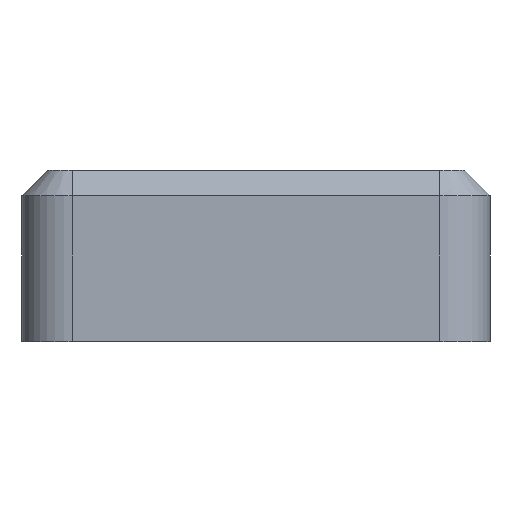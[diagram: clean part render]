
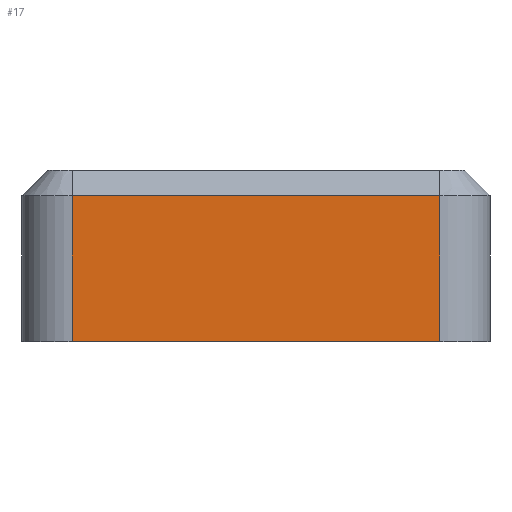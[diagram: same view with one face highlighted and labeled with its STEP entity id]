
A CAD part, front view. The second image highlights one B-rep face of the part: STEP entity #17.
In plain terms, the highlighted planar face has unit normal (0, -1, 0).
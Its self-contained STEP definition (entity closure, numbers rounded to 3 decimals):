
#17 = ADVANCED_FACE('',(#18),#32,.F.);
#18 = FACE_BOUND('',#19,.F.);
#19 = EDGE_LOOP('',(#20,#55,#83,#111));
#20 = ORIENTED_EDGE('',*,*,#21,.T.);
#21 = EDGE_CURVE('',#22,#24,#26,.T.);
#22 = VERTEX_POINT('',#23);
#23 = CARTESIAN_POINT('',(-7.3,-5.2,28.2));
#24 = VERTEX_POINT('',#25);
#25 = CARTESIAN_POINT('',(-7.3,-5.2,34.));
#26 = SURFACE_CURVE('',#27,(#31,#43),.PCURVE_S1.);
#27 = LINE('',#28,#29);
#28 = CARTESIAN_POINT('',(-7.3,-5.2,28.2));
#29 = VECTOR('',#30,1.);
#30 = DIRECTION('',(0.,0.,1.));
#31 = PCURVE('',#32,#37);
#32 = PLANE('',#33);
#33 = AXIS2_PLACEMENT_3D('',#34,#35,#36);
#34 = CARTESIAN_POINT('',(-9.3,-5.2,28.2));
#35 = DIRECTION('',(0.,1.,0.));
#36 = DIRECTION('',(1.,0.,0.));
#37 = DEFINITIONAL_REPRESENTATION('',(#38),#42);
#38 = LINE('',#39,#40);
#39 = CARTESIAN_POINT('',(2.,0.));
#40 = VECTOR('',#41,1.);
#41 = DIRECTION('',(0.,-1.));
#42 = ( GEOMETRIC_REPRESENTATION_CONTEXT(2) 
PARAMETRIC_REPRESENTATION_CONTEXT() REPRESENTATION_CONTEXT('2D SPACE',''
  ) );
#43 = PCURVE('',#44,#49);
#44 = CYLINDRICAL_SURFACE('',#45,2.);
#45 = AXIS2_PLACEMENT_3D('',#46,#47,#48);
#46 = CARTESIAN_POINT('',(-7.3,-3.2,28.2));
#47 = DIRECTION('',(0.,0.,1.));
#48 = DIRECTION('',(0.,-1.,0.));
#49 = DEFINITIONAL_REPRESENTATION('',(#50),#54);
#50 = LINE('',#51,#52);
#51 = CARTESIAN_POINT('',(-0.,0.));
#52 = VECTOR('',#53,1.);
#53 = DIRECTION('',(-0.,1.));
#54 = ( GEOMETRIC_REPRESENTATION_CONTEXT(2) 
PARAMETRIC_REPRESENTATION_CONTEXT() REPRESENTATION_CONTEXT('2D SPACE',''
  ) );
#55 = ORIENTED_EDGE('',*,*,#56,.T.);
#56 = EDGE_CURVE('',#24,#57,#59,.T.);
#57 = VERTEX_POINT('',#58);
#58 = CARTESIAN_POINT('',(7.3,-5.2,34.));
#59 = SURFACE_CURVE('',#60,(#64,#71),.PCURVE_S1.);
#60 = LINE('',#61,#62);
#61 = CARTESIAN_POINT('',(-7.3,-5.2,34.));
#62 = VECTOR('',#63,1.);
#63 = DIRECTION('',(1.,0.,0.));
#64 = PCURVE('',#32,#65);
#65 = DEFINITIONAL_REPRESENTATION('',(#66),#70);
#66 = LINE('',#67,#68);
#67 = CARTESIAN_POINT('',(2.,-5.8));
#68 = VECTOR('',#69,1.);
#69 = DIRECTION('',(1.,0.));
#70 = ( GEOMETRIC_REPRESENTATION_CONTEXT(2) 
PARAMETRIC_REPRESENTATION_CONTEXT() REPRESENTATION_CONTEXT('2D SPACE',''
  ) );
#71 = PCURVE('',#72,#77);
#72 = PLANE('',#73);
#73 = AXIS2_PLACEMENT_3D('',#74,#75,#76);
#74 = CARTESIAN_POINT('',(-7.3,-4.7,34.5));
#75 = DIRECTION('',(0.,0.707,-0.707)
  );
#76 = DIRECTION('',(-1.,0.,0.));
#77 = DEFINITIONAL_REPRESENTATION('',(#78),#82);
#78 = LINE('',#79,#80);
#79 = CARTESIAN_POINT('',(-0.,-0.707));
#80 = VECTOR('',#81,1.);
#81 = DIRECTION('',(-1.,0.));
#82 = ( GEOMETRIC_REPRESENTATION_CONTEXT(2) 
PARAMETRIC_REPRESENTATION_CONTEXT() REPRESENTATION_CONTEXT('2D SPACE',''
  ) );
#83 = ORIENTED_EDGE('',*,*,#84,.F.);
#84 = EDGE_CURVE('',#85,#57,#87,.T.);
#85 = VERTEX_POINT('',#86);
#86 = CARTESIAN_POINT('',(7.3,-5.2,28.2));
#87 = SURFACE_CURVE('',#88,(#92,#99),.PCURVE_S1.);
#88 = LINE('',#89,#90);
#89 = CARTESIAN_POINT('',(7.3,-5.2,28.2));
#90 = VECTOR('',#91,1.);
#91 = DIRECTION('',(0.,0.,1.));
#92 = PCURVE('',#32,#93);
#93 = DEFINITIONAL_REPRESENTATION('',(#94),#98);
#94 = LINE('',#95,#96);
#95 = CARTESIAN_POINT('',(16.6,0.));
#96 = VECTOR('',#97,1.);
#97 = DIRECTION('',(0.,-1.));
#98 = ( GEOMETRIC_REPRESENTATION_CONTEXT(2) 
PARAMETRIC_REPRESENTATION_CONTEXT() REPRESENTATION_CONTEXT('2D SPACE',''
  ) );
#99 = PCURVE('',#100,#105);
#100 = CYLINDRICAL_SURFACE('',#101,2.);
#101 = AXIS2_PLACEMENT_3D('',#102,#103,#104);
#102 = CARTESIAN_POINT('',(7.3,-3.2,28.2));
#103 = DIRECTION('',(0.,0.,1.));
#104 = DIRECTION('',(0.,-1.,0.));
#105 = DEFINITIONAL_REPRESENTATION('',(#106),#110);
#106 = LINE('',#107,#108);
#107 = CARTESIAN_POINT('',(0.,0.));
#108 = VECTOR('',#109,1.);
#109 = DIRECTION('',(0.,1.));
#110 = ( GEOMETRIC_REPRESENTATION_CONTEXT(2) 
PARAMETRIC_REPRESENTATION_CONTEXT() REPRESENTATION_CONTEXT('2D SPACE',''
  ) );
#111 = ORIENTED_EDGE('',*,*,#112,.F.);
#112 = EDGE_CURVE('',#22,#85,#113,.T.);
#113 = SURFACE_CURVE('',#114,(#118,#125),.PCURVE_S1.);
#114 = LINE('',#115,#116);
#115 = CARTESIAN_POINT('',(-9.3,-5.2,28.2));
#116 = VECTOR('',#117,1.);
#117 = DIRECTION('',(1.,0.,0.));
#118 = PCURVE('',#32,#119);
#119 = DEFINITIONAL_REPRESENTATION('',(#120),#124);
#120 = LINE('',#121,#122);
#121 = CARTESIAN_POINT('',(0.,0.));
#122 = VECTOR('',#123,1.);
#123 = DIRECTION('',(1.,0.));
#124 = ( GEOMETRIC_REPRESENTATION_CONTEXT(2) 
PARAMETRIC_REPRESENTATION_CONTEXT() REPRESENTATION_CONTEXT('2D SPACE',''
  ) );
#125 = PCURVE('',#126,#131);
#126 = PLANE('',#127);
#127 = AXIS2_PLACEMENT_3D('',#128,#129,#130);
#128 = CARTESIAN_POINT('',(0.,5.3,28.2));
#129 = DIRECTION('',(0.,0.,1.));
#130 = DIRECTION('',(1.,0.,-0.));
#131 = DEFINITIONAL_REPRESENTATION('',(#132),#136);
#132 = LINE('',#133,#134);
#133 = CARTESIAN_POINT('',(-9.3,-10.5));
#134 = VECTOR('',#135,1.);
#135 = DIRECTION('',(1.,0.));
#136 = ( GEOMETRIC_REPRESENTATION_CONTEXT(2) 
PARAMETRIC_REPRESENTATION_CONTEXT() REPRESENTATION_CONTEXT('2D SPACE',''
  ) );
